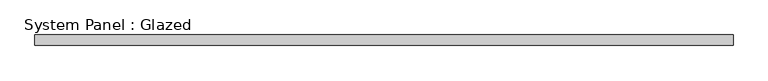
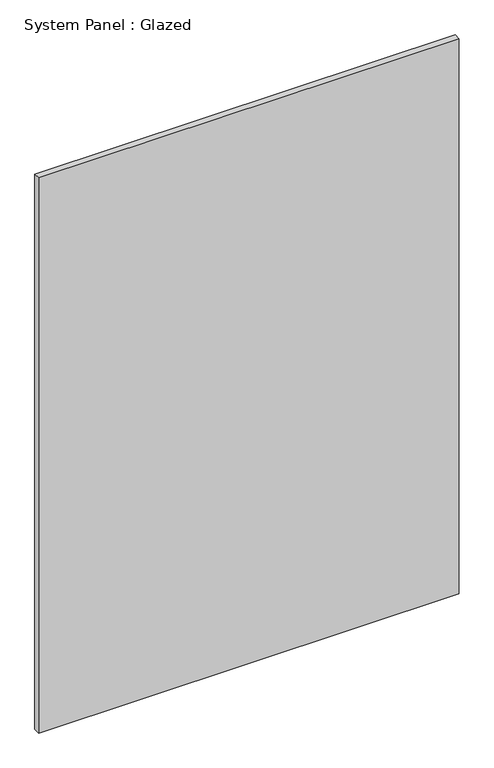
"""IFC4 building model written with IfcOpenShell, lengths in millimetres: plate geometry, System Panel : Glazed."""

from ifc_helpers import new_model, si_unit, origin, origin_with_axes, place, context, project, spatial, polyline, outline, extrude, source, transform, mapped, element, save


def system_panel_glazed_a18a3faf(model_context):
    return source(origin(), model_context, "Body", "SweptSolid", [
        extrude(outline(polyline([(842.957653, 19.05), (-842.957653, 19.05), (-842.957653, 44.45), (842.957653, 44.45), (842.957653, 19.05)])), origin_with_axes(), (0.0, 0.0, 1.0), 2352.7115942),
    ])


if __name__ == "__main__":
    model = new_model("IFC4")
    model_context = context("Model", 3, world=origin())
    ifc_project = project(units=[si_unit("LENGTHUNIT", "METRE", prefix="MILLI")], contexts=[model_context])
    site = spatial("IfcSite", under=ifc_project)
    building = spatial("IfcBuilding", under=site)
    placement = place(None, origin())
    system_panel_glazed_shape = system_panel_glazed_a18a3faf(model_context)
    element("IfcPlate", 1, ObjectType="System Panel : Glazed", at=placement, inside=building, context=model_context, shape_type="MappedRepresentation", body=[
        mapped(system_panel_glazed_shape, transform((0.0, 0.0, 0.0), x_axis=(1.0, 0.0, 0.0), y_axis=(0.0, 1.0, 0.0), z_axis=(0.0, 0.0, 1.0))),
    ])
    save(model, "model.ifc")
